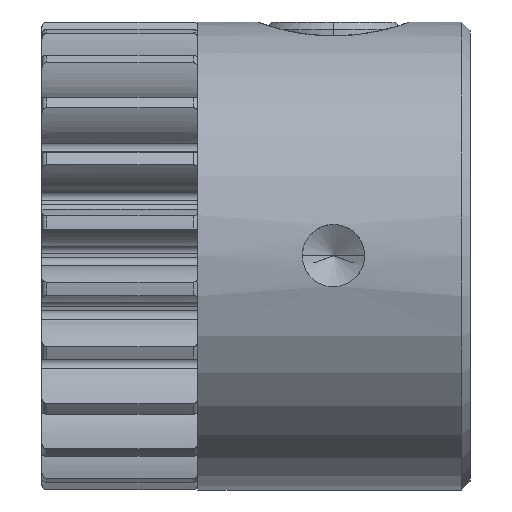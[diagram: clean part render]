
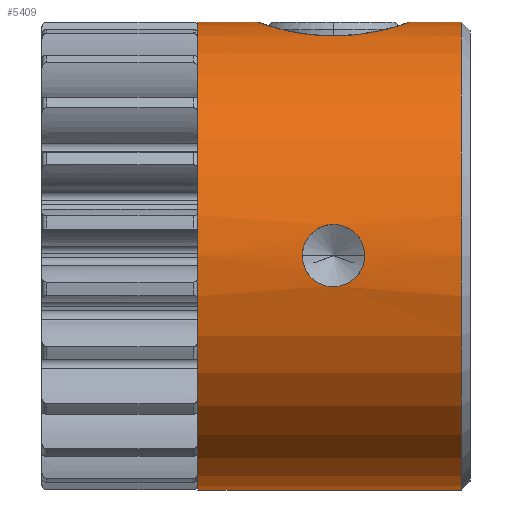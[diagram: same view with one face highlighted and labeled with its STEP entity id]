
A CAD part, top view. The second image highlights one B-rep face of the part: STEP entity #5409.
In plain terms, the highlighted cylindrical face has radius 4.763 mm (diameter 9.525 mm), a partial arc.
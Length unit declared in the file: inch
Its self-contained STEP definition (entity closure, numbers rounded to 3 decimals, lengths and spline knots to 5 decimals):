
#6=CARTESIAN_POINT('',(0.0625,0.,0.));
#7=DIRECTION('',(1.,0.,0.));
#8=DIRECTION('',(0.,1.,0.));
#9=AXIS2_PLACEMENT_3D('',#6,#7,#8);
#1155=DIRECTION('',(-1.,0.,0.));
#1156=VECTOR('',#1155,0.0466);
#1157=CARTESIAN_POINT('',(0.1091,0.1875,
0.));
#1158=LINE('',#1157,#1156);
#1159=DIRECTION('',(-1.,0.,0.));
#1160=VECTOR('',#1159,0.21098);
#1161=CARTESIAN_POINT('',(0.27348,-0.1875,0.));
#1162=LINE('',#1161,#1160);
#1168=DIRECTION('',(-1.,0.,0.));
#1169=VECTOR('',#1168,0.04038);
#1170=CARTESIAN_POINT('',(0.27348,0.1875,0.));
#1171=LINE('',#1170,#1169);
#1172=CARTESIAN_POINT('',(0.1091,0.1875,
0.));
#1192=CARTESIAN_POINT('',(0.2331,0.1875,
0.));
#1225=CARTESIAN_POINT('',(0.2331,0.1875,
0.));
#1226=CARTESIAN_POINT('',(0.2331,0.1875,
0.00376));
#1227=CARTESIAN_POINT('',(0.23247,0.18728,
0.01118));
#1228=CARTESIAN_POINT('',(0.22963,0.18629,
0.02213));
#1229=CARTESIAN_POINT('',(0.22494,0.18476,
0.03243));
#1230=CARTESIAN_POINT('',(0.21853,0.18286,
0.04178));
#1231=CARTESIAN_POINT('',(0.21053,0.1808,
0.04988));
#1232=CARTESIAN_POINT('',(0.20134,0.17888,
0.05629));
#1233=CARTESIAN_POINT('',(0.19151,0.17738,
0.06081));
#1234=CARTESIAN_POINT('',(0.18137,0.17644,
0.06347));
#1235=CARTESIAN_POINT('',(0.1711,0.17611,
0.06434));
#1236=CARTESIAN_POINT('',(0.16083,0.17644,
0.06347));
#1237=CARTESIAN_POINT('',(0.15069,0.17738,
0.06081));
#1238=CARTESIAN_POINT('',(0.14086,0.17888,
0.05629));
#1239=CARTESIAN_POINT('',(0.13167,0.1808,
0.04988));
#1240=CARTESIAN_POINT('',(0.12367,0.18286,
0.04178));
#1241=CARTESIAN_POINT('',(0.11726,0.18476,
0.03243));
#1242=CARTESIAN_POINT('',(0.11257,0.18629,
0.02213));
#1243=CARTESIAN_POINT('',(0.10973,0.18728,
0.01118));
#1244=CARTESIAN_POINT('',(0.1091,0.1875,
0.00376));
#1245=CARTESIAN_POINT('',(0.1091,0.1875,
0.));
#1278=CARTESIAN_POINT('',(0.27348,0.,0.));
#1279=DIRECTION('',(1.,0.,0.));
#1280=DIRECTION('',(0.,1.,0.));
#1281=AXIS2_PLACEMENT_3D('',#1278,#1279,#1280);
#1283=CARTESIAN_POINT('',(0.1961,0.,0.1875));
#1284=CARTESIAN_POINT('',(0.1961,-0.00176,0.1875));
#1285=CARTESIAN_POINT('',(0.19574,-0.00521,
0.18745));
#1286=CARTESIAN_POINT('',(0.19411,-0.01023,
0.18724));
#1287=CARTESIAN_POINT('',(0.19148,-0.0148,
0.18693));
#1288=CARTESIAN_POINT('',(0.18798,-0.01869,
0.18658));
#1289=CARTESIAN_POINT('',(0.1837,-0.02181,
0.18623));
#1290=CARTESIAN_POINT('',(0.17892,-0.02394,
0.18597));
#1291=CARTESIAN_POINT('',(0.17372,-0.02505,
0.18582));
#1292=CARTESIAN_POINT('',(0.16848,-0.02505,
0.18582));
#1293=CARTESIAN_POINT('',(0.16329,-0.02394,
0.18597));
#1294=CARTESIAN_POINT('',(0.15851,-0.02181,
0.18623));
#1295=CARTESIAN_POINT('',(0.15423,-0.0187,
0.18658));
#1296=CARTESIAN_POINT('',(0.15073,-0.0148,
0.18693));
#1297=CARTESIAN_POINT('',(0.14809,-0.01024,
0.18724));
#1298=CARTESIAN_POINT('',(0.14647,-0.00522,
0.18745));
#1299=CARTESIAN_POINT('',(0.1461,-0.00177,0.1875));
#1300=CARTESIAN_POINT('',(0.1461,0.,0.1875));
#1302=CARTESIAN_POINT('',(0.1461,0.,0.1875));
#1303=CARTESIAN_POINT('',(0.1461,0.00176,0.1875));
#1304=CARTESIAN_POINT('',(0.14646,0.00521,
0.18745));
#1305=CARTESIAN_POINT('',(0.14809,0.01023,
0.18724));
#1306=CARTESIAN_POINT('',(0.15072,0.0148,
0.18693));
#1307=CARTESIAN_POINT('',(0.15422,0.01869,
0.18658));
#1308=CARTESIAN_POINT('',(0.1585,0.02181,
0.18623));
#1309=CARTESIAN_POINT('',(0.16328,0.02394,
0.18597));
#1310=CARTESIAN_POINT('',(0.16848,0.02505,
0.18582));
#1311=CARTESIAN_POINT('',(0.17372,0.02505,
0.18582));
#1312=CARTESIAN_POINT('',(0.17891,0.02394,
0.18597));
#1313=CARTESIAN_POINT('',(0.18369,0.02181,
0.18623));
#1314=CARTESIAN_POINT('',(0.18797,0.0187,
0.18658));
#1315=CARTESIAN_POINT('',(0.19147,0.0148,
0.18693));
#1316=CARTESIAN_POINT('',(0.19411,0.01024,
0.18724));
#1317=CARTESIAN_POINT('',(0.19573,0.00522,
0.18745));
#1318=CARTESIAN_POINT('',(0.1961,0.00177,0.1875));
#1319=CARTESIAN_POINT('',(0.1961,0.,0.1875));
#4637=CARTESIAN_POINT('',(0.27348,0.1875,0.));
#4639=VERTEX_POINT('',#4637);
#4641=CARTESIAN_POINT('',(0.27348,-0.1875,0.));
#4643=VERTEX_POINT('',#4641);
#4644=CARTESIAN_POINT('',(0.0625,-0.1875,0.));
#4645=VERTEX_POINT('',#4644);
#4646=CARTESIAN_POINT('',(0.0625,0.1875,0.));
#4647=VERTEX_POINT('',#4646);
#4687=VERTEX_POINT('',#1172);
#4688=VERTEX_POINT('',#1192);
#4701=VERTEX_POINT('',#1283);
#4702=VERTEX_POINT('',#1300);
#5389=CARTESIAN_POINT('',(-0.01403,0.,0.));
#5390=DIRECTION('',(1.,0.,0.));
#5391=DIRECTION('',(0.,-1.,0.));
#5392=AXIS2_PLACEMENT_3D('',#5389,#5390,#5391);
#5393=CYLINDRICAL_SURFACE('',#5392,0.1875);
#5394=ORIENTED_EDGE('',*,*,#5380,.F.);
#5395=ORIENTED_EDGE('',*,*,#5179,.F.);
#5397=ORIENTED_EDGE('',*,*,#5396,.T.);
#5398=ORIENTED_EDGE('',*,*,#5175,.T.);
#5399=ORIENTED_EDGE('',*,*,#4895,.F.);
#5400=ORIENTED_EDGE('',*,*,#5172,.F.);
#5401=EDGE_LOOP('',(#5394,#5395,#5397,#5398,#5399,#5400));
#5402=FACE_OUTER_BOUND('',#5401,.F.);
#5404=ORIENTED_EDGE('',*,*,#5403,.F.);
#5406=ORIENTED_EDGE('',*,*,#5405,.F.);
#5407=EDGE_LOOP('',(#5404,#5406));
#5408=FACE_BOUND('',#5407,.F.);
#5409=ADVANCED_FACE('',(#5402,#5408),#5393,.T.);
#10=CIRCLE('',#9,0.1875);
#1246=B_SPLINE_CURVE_WITH_KNOTS('',3,(#1225,#1226,#1227,#1228,#1229,#1230,#1231,
#1232,#1233,#1234,#1235,#1236,#1237,#1238,#1239,#1240,#1241,#1242,#1243,#1244,
#1245),.UNSPECIFIED.,.F.,.F.,(4,1,1,1,1,1,1,1,1,1,1,1,1,1,1,1,1,1,4),(0.,
0.05556,0.11111,0.16667,0.22222,
0.27778,0.33333,0.38889,0.44444,0.5,
0.55556,0.61111,0.66667,0.72222,
0.77778,0.83333,0.88889,0.94444,1.),
.UNSPECIFIED.);
#1282=CIRCLE('',#1281,0.1875);
#1301=B_SPLINE_CURVE_WITH_KNOTS('',3,(#1283,#1284,#1285,#1286,#1287,#1288,#1289,
#1290,#1291,#1292,#1293,#1294,#1295,#1296,#1297,#1298,#1299,#1300),
.UNSPECIFIED.,.F.,.F.,(4,1,1,1,1,1,1,1,1,1,1,1,1,1,1,4),(0.,0.06667,
0.13333,0.2,0.26667,0.33333,0.4,
0.46667,0.53333,0.6,0.66667,0.73333,
0.8,0.86667,0.93333,1.),.UNSPECIFIED.);
#1320=B_SPLINE_CURVE_WITH_KNOTS('',3,(#1302,#1303,#1304,#1305,#1306,#1307,#1308,
#1309,#1310,#1311,#1312,#1313,#1314,#1315,#1316,#1317,#1318,#1319),
.UNSPECIFIED.,.F.,.F.,(4,1,1,1,1,1,1,1,1,1,1,1,1,1,1,4),(0.,0.06667,
0.13333,0.2,0.26667,0.33333,0.4,
0.46667,0.53333,0.6,0.66667,0.73333,
0.8,0.86667,0.93333,1.),.UNSPECIFIED.);
#4895=EDGE_CURVE('',#4647,#4645,#10,.T.);
#5172=EDGE_CURVE('',#4687,#4647,#1158,.T.);
#5175=EDGE_CURVE('',#4643,#4645,#1162,.T.);
#5179=EDGE_CURVE('',#4639,#4688,#1171,.T.);
#5380=EDGE_CURVE('',#4688,#4687,#1246,.T.);
#5396=EDGE_CURVE('',#4639,#4643,#1282,.T.);
#5403=EDGE_CURVE('',#4701,#4702,#1301,.T.);
#5405=EDGE_CURVE('',#4702,#4701,#1320,.T.);
